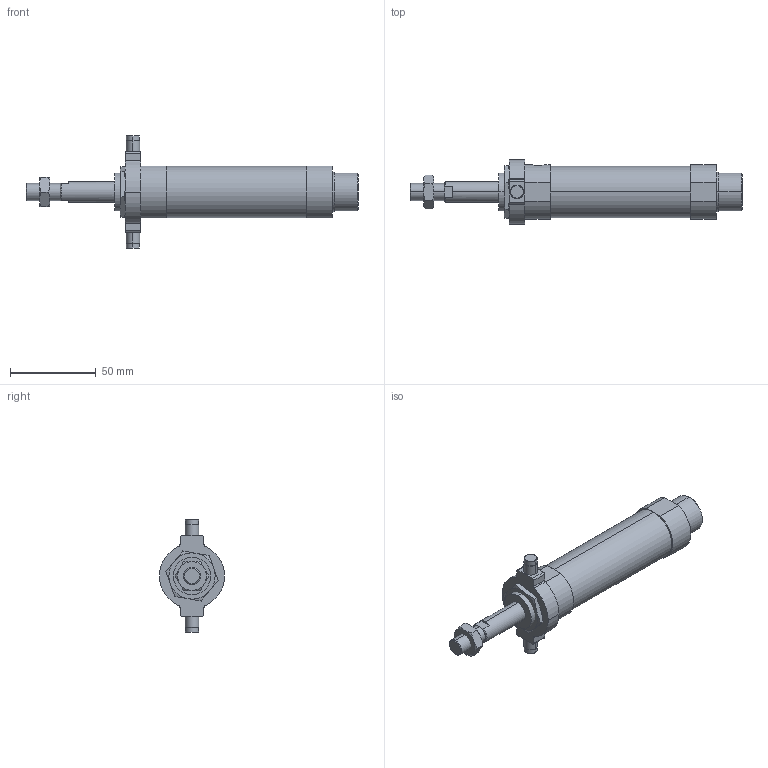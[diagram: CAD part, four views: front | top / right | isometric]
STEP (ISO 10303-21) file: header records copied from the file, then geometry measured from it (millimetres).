
FILE_DESCRIPTION (( 'STEP AP203' ), '1' );
FILE_NAME ('J#0-25-25-T.STEP', '2016-03-08T06:35:17', ( '' ), ( '' ), 'SwSTEP 2.0', 'SolidWorks 2014', '' );
FILE_SCHEMA (( 'CONFIG_CONTROL_DESIGN' ));
Length unit declared in the file: millimetre
Products named in the file (5): J#2-25-T; J#0-25-25-T; J#0-25-25
Assembly tree (4 placements, depth 2):
  J#0-25-25-T
    J#0-25-25
    (unnamed)
    J#2-25-T
    (unnamed)
Bounding box: 194 x 38 x 66 mm (x, y, z)
Volume: 107612.8 mm3; surface area: 22992.9 mm2
Topology: 4 solids, 4 shells, 132 faces, 297 edges, 179 vertices
Faces by surface type: plane 47, cylinder 45, torus 24, cone 16
Entity records: 4426 total; most frequent: CARTESIAN_POINT 971, DIRECTION 645, ORIENTED_EDGE 590, EDGE_CURVE 295, AXIS2_PLACEMENT_3D 265, VERTEX_POINT 179, EDGE_LOOP 146, ADVANCED_FACE 132
